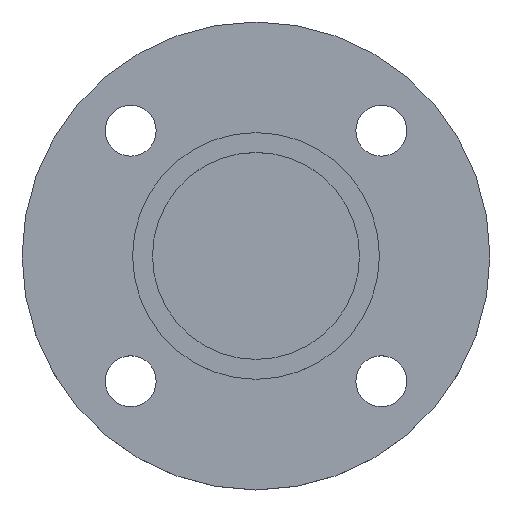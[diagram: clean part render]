
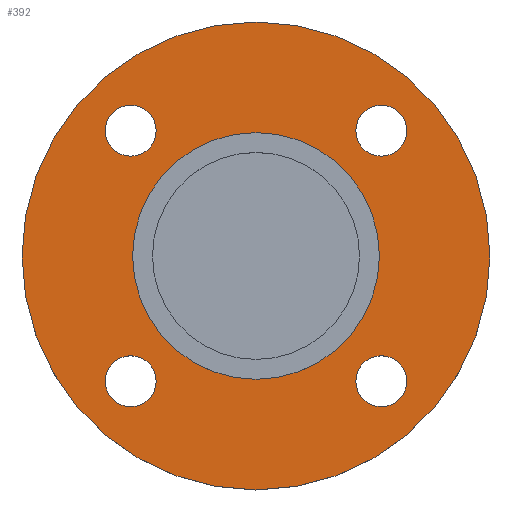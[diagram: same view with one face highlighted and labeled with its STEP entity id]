
A CAD part, top view. The second image highlights one B-rep face of the part: STEP entity #392.
In plain terms, the highlighted planar face has unit normal (0, 0, 1).
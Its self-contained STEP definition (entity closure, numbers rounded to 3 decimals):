
#16 = EDGE_CURVE ( 'NONE', #546, #695, #25, .T. ) ;
#25 = CIRCLE ( 'NONE', #27, 9. ) ;
#27 = AXIS2_PLACEMENT_3D ( 'NONE', #771, #772, #773 ) ;
#40 = CARTESIAN_POINT ( 'NONE',  ( -82.5, 0., -4.5 ) ) ;
#56 = CARTESIAN_POINT ( 'NONE',  ( 53.194, 44.194, -4.5 ) ) ;
#59 = CARTESIAN_POINT ( 'NONE',  ( 82.5, 0., -4.5 ) ) ;
#67 = CARTESIAN_POINT ( 'NONE',  ( -35.194, 44.194, -4.5 ) ) ;
#84 = CARTESIAN_POINT ( 'NONE',  ( -35.194, -44.194, -4.5 ) ) ;
#90 = CARTESIAN_POINT ( 'NONE',  ( 35.194, 44.194, -4.5 ) ) ;
#91 = DIRECTION ( 'NONE',  ( -1., 0., 0. ) ) ;
#92 = DIRECTION ( 'NONE',  ( 0., 0., -1. ) ) ;
#93 = CARTESIAN_POINT ( 'NONE',  ( 0., 0., -4.5 ) ) ;
#100 = CARTESIAN_POINT ( 'NONE',  ( 35.194, -44.194, -4.5 ) ) ;
#106 = DIRECTION ( 'NONE',  ( 1., 0., 0. ) ) ;
#108 = DIRECTION ( 'NONE',  ( 0., 0., -1. ) ) ;
#109 = CARTESIAN_POINT ( 'NONE',  ( -44.194, 44.194, -4.5 ) ) ;
#114 = DIRECTION ( 'NONE',  ( 1., 0., 0. ) ) ;
#115 = DIRECTION ( 'NONE',  ( 0., 0., -1. ) ) ;
#118 = CARTESIAN_POINT ( 'NONE',  ( -44.194, -44.194, -4.5 ) ) ;
#139 = DIRECTION ( 'NONE',  ( 1., 0., 0. ) ) ;
#141 = DIRECTION ( 'NONE',  ( 0., 0., -1. ) ) ;
#142 = CARTESIAN_POINT ( 'NONE',  ( 44.194, -44.194, -4.5 ) ) ;
#145 = CARTESIAN_POINT ( 'NONE',  ( 53.194, -44.194, -4.5 ) ) ;
#147 = CARTESIAN_POINT ( 'NONE',  ( -53.194, -44.194, -4.5 ) ) ;
#151 = EDGE_CURVE ( 'NONE', #650, #547, #175, .T. ) ;
#154 = DIRECTION ( 'NONE',  ( -1., 0., 0. ) ) ;
#156 = DIRECTION ( 'NONE',  ( 0., 0., -1. ) ) ;
#158 = CARTESIAN_POINT ( 'NONE',  ( 0., 0., -4.5 ) ) ;
#163 = CARTESIAN_POINT ( 'NONE',  ( -53.194, 44.194, -4.5 ) ) ;
#171 = CIRCLE ( 'NONE', #435, 9. ) ;
#175 = CIRCLE ( 'NONE', #178, 9. ) ;
#177 = CARTESIAN_POINT ( 'NONE',  ( -43.5, 0., -4.5 ) ) ;
#178 = AXIS2_PLACEMENT_3D ( 'NONE', #829, #830, #282 ) ;
#182 = CARTESIAN_POINT ( 'NONE',  ( 43.5, 0., -4.5 ) ) ;
#205 = DIRECTION ( 'NONE',  ( 1., 0., 0. ) ) ;
#210 = CARTESIAN_POINT ( 'NONE',  ( -44.194, 44.194, -4.5 ) ) ;
#217 = CARTESIAN_POINT ( 'NONE',  ( 0., 0., -4.5 ) ) ;
#236 = AXIS2_PLACEMENT_3D ( 'NONE', #210, #276, #205 ) ;
#237 = CARTESIAN_POINT ( 'NONE',  ( 44.194, 44.194, -4.5 ) ) ;
#238 = DIRECTION ( 'NONE',  ( 0., 0., -1. ) ) ;
#244 = DIRECTION ( 'NONE',  ( -1., 0., 0. ) ) ;
#250 = DIRECTION ( 'NONE',  ( 0., 0., -1. ) ) ;
#251 = DIRECTION ( 'NONE',  ( 0., 0., -1. ) ) ;
#253 = CARTESIAN_POINT ( 'NONE',  ( 0., 0., -4.5 ) ) ;
#254 = DIRECTION ( 'NONE',  ( 1., 0., 0. ) ) ;
#255 = DIRECTION ( 'NONE',  ( -1., 0., 0. ) ) ;
#276 = DIRECTION ( 'NONE',  ( 0., 0., -1. ) ) ;
#282 = DIRECTION ( 'NONE',  ( 1., 0., 0. ) ) ;
#300 = EDGE_CURVE ( 'NONE', #666, #750, #171, .T. ) ;
#314 = AXIS2_PLACEMENT_3D ( 'NONE', #253, #251, #255 ) ;
#333 = CARTESIAN_POINT ( 'NONE',  ( 44.194, 44.194, -4.5 ) ) ;
#334 = DIRECTION ( 'NONE',  ( 0., 0., -1. ) ) ;
#335 = DIRECTION ( 'NONE',  ( 1., 0., 0. ) ) ;
#351 = AXIS2_PLACEMENT_3D ( 'NONE', #118, #115, #114 ) ;
#381 = FACE_BOUND ( 'NONE', #671, .T. ) ;
#382 = FACE_BOUND ( 'NONE', #506, .T. ) ;
#383 = FACE_BOUND ( 'NONE', #655, .T. ) ;
#384 = FACE_BOUND ( 'NONE', #544, .T. ) ;
#385 = FACE_BOUND ( 'NONE', #627, .T. ) ;
#387 = FACE_OUTER_BOUND ( 'NONE', #736, .T. ) ;
#389 = PLANE ( 'NONE',  #480 ) ;
#390 = CARTESIAN_POINT ( 'NONE',  ( 43.5, 0., -4.5 ) ) ;
#391 = DIRECTION ( 'NONE',  ( 0., 0., 1. ) ) ;
#392 = ADVANCED_FACE ( 'NONE', ( #381, #382, #383, #384, #385, #387 ), #389, .T. ) ;
#393 = DIRECTION ( 'NONE',  ( 1., 0., 0. ) ) ;
#401 = CIRCLE ( 'NONE', #529, 9. ) ;
#435 = AXIS2_PLACEMENT_3D ( 'NONE', #333, #334, #335 ) ;
#451 = CIRCLE ( 'NONE', #314, 82.5 ) ;
#452 = AXIS2_PLACEMENT_3D ( 'NONE', #217, #238, #244 ) ;
#459 = AXIS2_PLACEMENT_3D ( 'NONE', #109, #108, #106 ) ;
#464 = EDGE_CURVE ( 'NONE', #760, #745, #532, .T. ) ;
#473 = EDGE_CURVE ( 'NONE', #734, #533, #785, .T. ) ;
#475 = AXIS2_PLACEMENT_3D ( 'NONE', #93, #92, #91 ) ;
#480 = AXIS2_PLACEMENT_3D ( 'NONE', #390, #391, #393 ) ;
#484 = EDGE_CURVE ( 'NONE', #750, #666, #401, .T. ) ;
#489 = EDGE_CURVE ( 'NONE', #745, #760, #451, .T. ) ;
#494 = CIRCLE ( 'NONE', #459, 9. ) ;
#495 = CIRCLE ( 'NONE', #792, 43.5 ) ;
#505 = CIRCLE ( 'NONE', #475, 43.5 ) ;
#506 = EDGE_LOOP ( 'NONE', ( #628, #629 ) ) ;
#509 = VERTEX_POINT ( 'NONE', #182 ) ;
#519 = VERTEX_POINT ( 'NONE', #177 ) ;
#529 = AXIS2_PLACEMENT_3D ( 'NONE', #237, #250, #254 ) ;
#532 = CIRCLE ( 'NONE', #452, 82.5 ) ;
#533 = VERTEX_POINT ( 'NONE', #163 ) ;
#537 = EDGE_CURVE ( 'NONE', #509, #519, #495, .T. ) ;
#544 = EDGE_LOOP ( 'NONE', ( #635, #636 ) ) ;
#546 = VERTEX_POINT ( 'NONE', #147 ) ;
#547 = VERTEX_POINT ( 'NONE', #145 ) ;
#562 = EDGE_CURVE ( 'NONE', #547, #650, #717, .T. ) ;
#604 = EDGE_CURVE ( 'NONE', #695, #546, #805, .T. ) ;
#619 = EDGE_CURVE ( 'NONE', #533, #734, #494, .T. ) ;
#625 = ORIENTED_EDGE ( 'NONE', *, *, #562, .T. ) ;
#626 = ORIENTED_EDGE ( 'NONE', *, *, #151, .T. ) ;
#627 = EDGE_LOOP ( 'NONE', ( #637, #638 ) ) ;
#628 = ORIENTED_EDGE ( 'NONE', *, *, #604, .T. ) ;
#629 = ORIENTED_EDGE ( 'NONE', *, *, #16, .T. ) ;
#631 = ORIENTED_EDGE ( 'NONE', *, *, #473, .T. ) ;
#633 = ORIENTED_EDGE ( 'NONE', *, *, #619, .T. ) ;
#635 = ORIENTED_EDGE ( 'NONE', *, *, #484, .T. ) ;
#636 = ORIENTED_EDGE ( 'NONE', *, *, #300, .T. ) ;
#637 = ORIENTED_EDGE ( 'NONE', *, *, #661, .T. ) ;
#638 = ORIENTED_EDGE ( 'NONE', *, *, #537, .T. ) ;
#639 = ORIENTED_EDGE ( 'NONE', *, *, #489, .F. ) ;
#640 = ORIENTED_EDGE ( 'NONE', *, *, #464, .F. ) ;
#650 = VERTEX_POINT ( 'NONE', #100 ) ;
#655 = EDGE_LOOP ( 'NONE', ( #631, #633 ) ) ;
#661 = EDGE_CURVE ( 'NONE', #519, #509, #505, .T. ) ;
#666 = VERTEX_POINT ( 'NONE', #90 ) ;
#671 = EDGE_LOOP ( 'NONE', ( #625, #626 ) ) ;
#695 = VERTEX_POINT ( 'NONE', #84 ) ;
#717 = CIRCLE ( 'NONE', #751, 9. ) ;
#734 = VERTEX_POINT ( 'NONE', #67 ) ;
#736 = EDGE_LOOP ( 'NONE', ( #639, #640 ) ) ;
#745 = VERTEX_POINT ( 'NONE', #59 ) ;
#750 = VERTEX_POINT ( 'NONE', #56 ) ;
#751 = AXIS2_PLACEMENT_3D ( 'NONE', #142, #141, #139 ) ;
#760 = VERTEX_POINT ( 'NONE', #40 ) ;
#771 = CARTESIAN_POINT ( 'NONE',  ( -44.194, -44.194, -4.5 ) ) ;
#772 = DIRECTION ( 'NONE',  ( 0., 0., -1. ) ) ;
#773 = DIRECTION ( 'NONE',  ( 1., 0., 0. ) ) ;
#785 = CIRCLE ( 'NONE', #236, 9. ) ;
#792 = AXIS2_PLACEMENT_3D ( 'NONE', #158, #156, #154 ) ;
#805 = CIRCLE ( 'NONE', #351, 9. ) ;
#829 = CARTESIAN_POINT ( 'NONE',  ( 44.194, -44.194, -4.5 ) ) ;
#830 = DIRECTION ( 'NONE',  ( 0., 0., -1. ) ) ;
